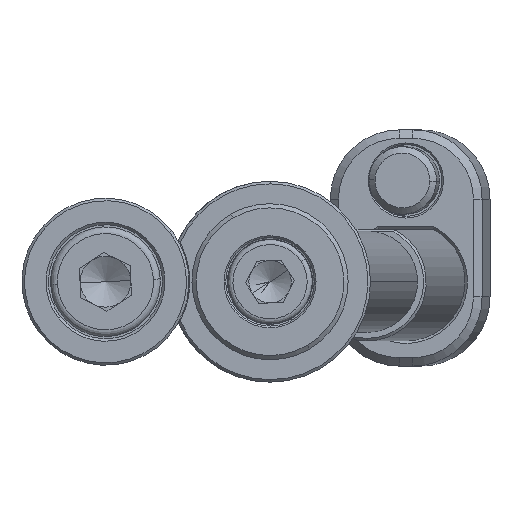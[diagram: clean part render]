
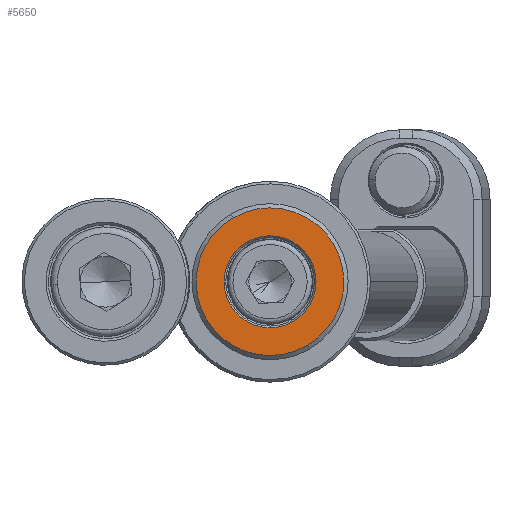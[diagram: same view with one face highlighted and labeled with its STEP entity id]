
A CAD part, front view. The second image highlights one B-rep face of the part: STEP entity #5650.
In plain terms, the highlighted planar face has unit normal (0, -1, 0).
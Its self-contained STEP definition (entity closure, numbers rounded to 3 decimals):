
#147 = PLANE ( 'NONE',  #7215 ) ;
#424 = DIRECTION ( 'NONE',  ( -0.505, 0., 0.863 ) ) ;
#588 = VERTEX_POINT ( 'NONE', #9491 ) ;
#681 = DIRECTION ( 'NONE',  ( -0.505, 0., 0.863 ) ) ;
#1292 = EDGE_LOOP ( 'NONE', ( #11921, #7924 ) ) ;
#1421 = AXIS2_PLACEMENT_3D ( 'NONE', #12237, #10147, #2245 ) ;
#1680 = DIRECTION ( 'NONE',  ( -0.505, 0., 0.863 ) ) ;
#1832 = DIRECTION ( 'NONE',  ( 0., -1., 0. ) ) ;
#2178 = CIRCLE ( 'NONE', #4008, 5.45 ) ;
#2245 = DIRECTION ( 'NONE',  ( -0.505, 0., 0.863 ) ) ;
#3138 = CIRCLE ( 'NONE', #10554, 8.75 ) ;
#3832 = DIRECTION ( 'NONE',  ( 0., -1., 0. ) ) ;
#4008 = AXIS2_PLACEMENT_3D ( 'NONE', #12034, #12900, #681 ) ;
#4559 = CIRCLE ( 'NONE', #10820, 8.75 ) ;
#4705 = CARTESIAN_POINT ( 'NONE',  ( 4.42, -4., -7.552 ) ) ;
#5169 = CIRCLE ( 'NONE', #1421, 5.45 ) ;
#5536 = CARTESIAN_POINT ( 'NONE',  ( -2.753, -4., 4.704 ) ) ;
#5650 = ADVANCED_FACE ( 'NONE', ( #13292, #11210 ), #147, .F. ) ;
#5890 = VERTEX_POINT ( 'NONE', #5536 ) ;
#6359 = ORIENTED_EDGE ( 'NONE', *, *, #9534, .T. ) ;
#6631 = EDGE_CURVE ( 'NONE', #5890, #7634, #5169, .T. ) ;
#6737 = EDGE_LOOP ( 'NONE', ( #10883, #6359 ) ) ;
#7215 = AXIS2_PLACEMENT_3D ( 'NONE', #10548, #7282, #424 ) ;
#7282 = DIRECTION ( 'NONE',  ( 0., 1., 0. ) ) ;
#7500 = EDGE_CURVE ( 'NONE', #7634, #5890, #2178, .T. ) ;
#7634 = VERTEX_POINT ( 'NONE', #10206 ) ;
#7924 = ORIENTED_EDGE ( 'NONE', *, *, #6631, .T. ) ;
#8189 = DIRECTION ( 'NONE',  ( -0.505, 0., 0.863 ) ) ;
#8690 = VERTEX_POINT ( 'NONE', #4705 ) ;
#8818 = EDGE_CURVE ( 'NONE', #588, #8690, #3138, .T. ) ;
#9491 = CARTESIAN_POINT ( 'NONE',  ( -4.42, -4., 7.552 ) ) ;
#9534 = EDGE_CURVE ( 'NONE', #8690, #588, #4559, .T. ) ;
#10147 = DIRECTION ( 'NONE',  ( 0., 1., 0. ) ) ;
#10206 = CARTESIAN_POINT ( 'NONE',  ( 2.753, -4., -4.704 ) ) ;
#10548 = CARTESIAN_POINT ( 'NONE',  ( -4.531, -4., -2.652 ) ) ;
#10554 = AXIS2_PLACEMENT_3D ( 'NONE', #12639, #1832, #1680 ) ;
#10820 = AXIS2_PLACEMENT_3D ( 'NONE', #11754, #3832, #8189 ) ;
#10883 = ORIENTED_EDGE ( 'NONE', *, *, #8818, .T. ) ;
#11210 = FACE_OUTER_BOUND ( 'NONE', #6737, .T. ) ;
#11754 = CARTESIAN_POINT ( 'NONE',  ( 0., -4., 0. ) ) ;
#11921 = ORIENTED_EDGE ( 'NONE', *, *, #7500, .T. ) ;
#12034 = CARTESIAN_POINT ( 'NONE',  ( 0., -4., 0. ) ) ;
#12237 = CARTESIAN_POINT ( 'NONE',  ( 0., -4., 0. ) ) ;
#12639 = CARTESIAN_POINT ( 'NONE',  ( 0., -4., 0. ) ) ;
#12900 = DIRECTION ( 'NONE',  ( 0., 1., 0. ) ) ;
#13292 = FACE_BOUND ( 'NONE', #1292, .T. ) ;
